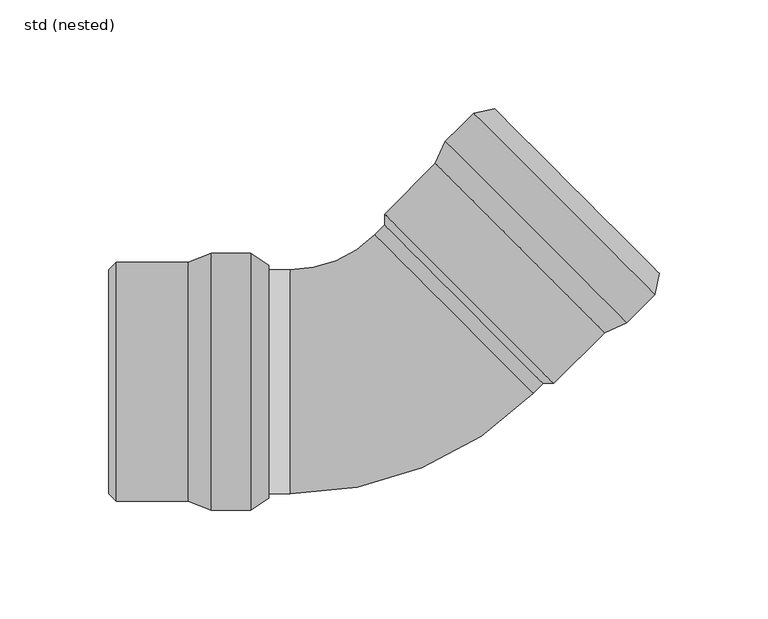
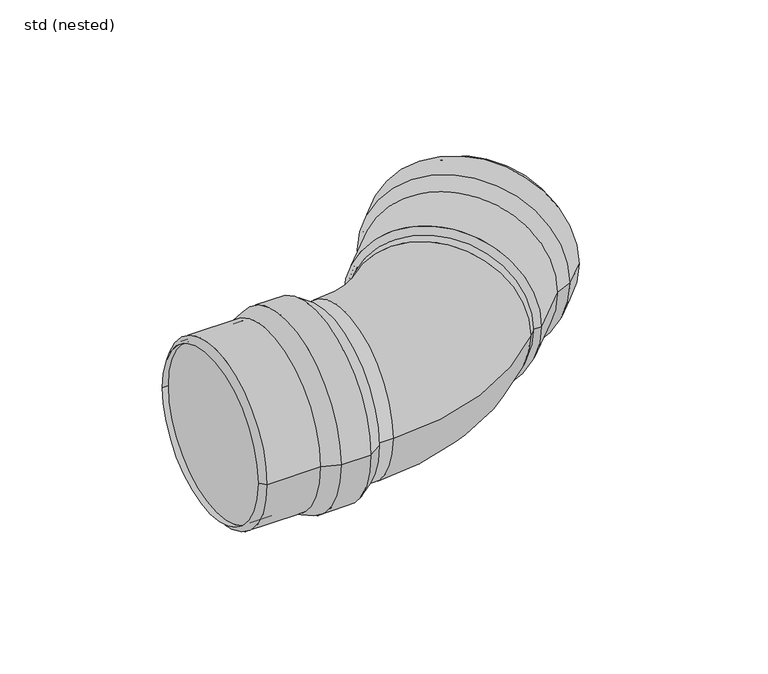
"""IFC4 building model written with IfcOpenShell, lengths in millimetres: pipe fitting geometry, ZZZ_do not use_PIF_ST_UN_GM-X pipe bend_ACO : std (nested)."""

from ifc_helpers import new_model, si_unit, point, frame, origin, place, context, project, spatial, polyline, circle_curve, ellipse_curve, trimmed, source, transform, mapped, element, save
from ifc_brep_helpers import plane_surface, cylinder_surface, revolved_surface, advanced_brep


def std_nested_1f503c2f(model_context):
    return source(origin(), model_context, "Body", "AdvancedBrep", [
        advanced_brep(
        [(-80.5, -59.0, 0.0), (-80.5, 59.0, 0.0), (-62.3, 59.0, 0.0), (-62.3, -59.0, 0.0), (-91.0, -55.0, 0.0), (-91.0, 55.0, 0.0), (-54.0, 53.5, 0.0), (-54.0, -53.5, 0.0), (-124.0, -55.0, 0.0), (-124.0, 55.0, 0.0), (-127.5, -51.5, 0.0), (-127.5, 51.5, 0.0), (-124.0, -51.5, 0.0), (-124.0, 51.5, 0.0), (-90.6319487, -53.0, 0.0), (-90.6319487, 53.0, 0.0), (-124.0, 53.0, 0.0), (-124.0, -53.0, 0.0), (-80.1319487, -57.0, 0.0), (-80.1319487, 57.0, 0.0), (-62.9025117, -57.0, 0.0), (-62.9025117, 57.0, 0.0), (-55.1047607, -51.8328156, 0.0), (-55.1047607, 51.8328156, 0.0)],
        [
            (0, 1, circle_curve(frame((-80.5, 0.0, 0.0), z_axis=(1.0, 0.0, 0.0), x_axis=(0.0, 1.0, 0.0)), 59.0)),
            (1, 2),
            (2, 3, circle_curve(frame((-62.3, 0.0, 0.0), z_axis=(-1.0, 0.0, 0.0), x_axis=(0.0, 1.0, 0.0)), 59.0)),
            (3, 0),
            (1, 0, circle_curve(frame((-80.5, 0.0, 0.0), z_axis=(1.0, 0.0, 0.0), x_axis=(0.0, 1.0, 0.0)), 59.0)),
            (3, 2, circle_curve(frame((-62.3, 0.0, 0.0), z_axis=(-1.0, 0.0, 0.0), x_axis=(0.0, 1.0, 0.0)), 59.0)),
            (4, 5, circle_curve(frame((-91.0, 0.0, 0.0), z_axis=(1.0, 0.0, 0.0), x_axis=(0.0, 1.0, 0.0)), 55.0)),
            (5, 1),
            (0, 4),
            (5, 4, circle_curve(frame((-91.0, 0.0, 0.0), z_axis=(1.0, 0.0, 0.0), x_axis=(0.0, 1.0, 0.0)), 55.0)),
            (2, 6),
            (6, 7, circle_curve(frame((-54.0, 0.0, 0.0), z_axis=(-1.0, 0.0, 0.0), x_axis=(0.0, 1.0, 0.0)), 53.5)),
            (7, 3),
            (7, 6, circle_curve(frame((-54.0, 0.0, 0.0), z_axis=(-1.0, 0.0, 0.0), x_axis=(0.0, 1.0, 0.0)), 53.5)),
            (8, 9, circle_curve(frame((-124.0, 0.0, 0.0), z_axis=(1.0, 0.0, 0.0), x_axis=(0.0, 1.0, 0.0)), 55.0)),
            (9, 5),
            (4, 8),
            (9, 8, circle_curve(frame((-124.0, 0.0, 0.0), z_axis=(1.0, 0.0, 0.0), x_axis=(0.0, 1.0, 0.0)), 55.0)),
            (10, 11, circle_curve(frame((-127.5, 0.0, 0.0), z_axis=(1.0, 0.0, 0.0), x_axis=(0.0, 1.0, 0.0)), 51.5)),
            (11, 9),
            (8, 10),
            (11, 10, circle_curve(frame((-127.5, 0.0, 0.0), z_axis=(1.0, 0.0, 0.0), x_axis=(0.0, 1.0, 0.0)), 51.5)),
            (12, 13, circle_curve(frame((-124.0, 0.0, 0.0), z_axis=(1.0, 0.0, 0.0), x_axis=(0.0, 1.0, 0.0)), 51.5)),
            (13, 11),
            (10, 12),
            (13, 12, circle_curve(frame((-124.0, 0.0, 0.0), z_axis=(1.0, 0.0, 0.0), x_axis=(0.0, 1.0, 0.0)), 51.5)),
            (14, 15, circle_curve(frame((-90.6319487, 0.0, 0.0), z_axis=(1.0, 0.0, 0.0), x_axis=(0.0, 1.0, 0.0)), 53.0)),
            (15, 16),
            (16, 17, circle_curve(frame((-124.0, 0.0, 0.0), z_axis=(-1.0, 0.0, 0.0), x_axis=(0.0, 1.0, 0.0)), 53.0)),
            (17, 14),
            (15, 14, circle_curve(frame((-90.6319487, 0.0, 0.0), z_axis=(1.0, 0.0, 0.0), x_axis=(0.0, 1.0, 0.0)), 53.0)),
            (17, 16, circle_curve(frame((-124.0, 0.0, 0.0), z_axis=(-1.0, 0.0, 0.0), x_axis=(0.0, 1.0, 0.0)), 53.0)),
            (18, 19, circle_curve(frame((-80.1319487, 0.0, 0.0), z_axis=(1.0, 0.0, 0.0), x_axis=(0.0, 1.0, 0.0)), 57.0)),
            (19, 15),
            (14, 18),
            (19, 18, circle_curve(frame((-80.1319487, 0.0, 0.0), z_axis=(1.0, 0.0, 0.0), x_axis=(0.0, 1.0, 0.0)), 57.0)),
            (20, 21, circle_curve(frame((-62.9025117, 0.0, 0.0), z_axis=(1.0, 0.0, 0.0), x_axis=(0.0, 1.0, 0.0)), 57.0)),
            (21, 19),
            (18, 20),
            (21, 20, circle_curve(frame((-62.9025117, 0.0, 0.0), z_axis=(1.0, 0.0, 0.0), x_axis=(0.0, 1.0, 0.0)), 57.0)),
            (22, 23, circle_curve(frame((-55.1047607, 0.0, 0.0), z_axis=(1.0, 0.0, 0.0), x_axis=(0.0, 1.0, 0.0)), 51.8328156)),
            (23, 21),
            (20, 22),
            (23, 22, circle_curve(frame((-55.1047607, 0.0, 0.0), z_axis=(1.0, 0.0, 0.0), x_axis=(0.0, 1.0, 0.0)), 51.8328156)),
            (6, 23),
            (22, 7),
            (16, 13),
            (12, 17),
        ],
        [
            cylinder_surface(frame((-57.3555883, 0.0, 0.0), z_axis=(-1.0, 0.0, 0.0), x_axis=(0.0, 1.0, 0.0)), 59.0),
            revolved_surface(polyline([(-80.5, 59.0, 0.0), (-91.0, 55.0, 0.0)]), (-57.3555883, 0.0, 0.0), (-1.0, 0.0, 0.0)),
            revolved_surface(polyline([(-54.0, 53.5, 0.0), (-62.3, 59.0, 0.0)]), (-57.3555883, 0.0, 0.0), (-1.0, 0.0, 0.0)),
            cylinder_surface(frame((-57.3555883, 0.0, 0.0), z_axis=(-1.0, 0.0, 0.0), x_axis=(0.0, 1.0, 0.0)), 55.0),
            revolved_surface(polyline([(-124.0, 55.0, 0.0), (-127.5, 51.5, 0.0)]), (-57.3555883, 0.0, 0.0), (-1.0, 0.0, 0.0)),
            revolved_surface(polyline([(-127.5, 51.5, 0.0), (-124.0, 51.5, 0.0)]), (-57.3555883, 0.0, 0.0), (-1.0, 0.0, 0.0)),
            revolved_surface(polyline([(-124.0, 53.0, 0.0), (-90.6319487, 53.0, 0.0)]), (-57.3555883, 0.0, 0.0), (-1.0, 0.0, 0.0)),
            revolved_surface(polyline([(-90.6319487, 53.0, 0.0), (-80.1319487, 57.0, 0.0)]), (-57.3555883, 0.0, 0.0), (-1.0, 0.0, 0.0)),
            revolved_surface(polyline([(-80.1319487, 57.0, 0.0), (-62.9025117, 57.0, 0.0)]), (-57.3555883, 0.0, 0.0), (-1.0, 0.0, 0.0)),
            revolved_surface(polyline([(-62.9025117, 57.0, 0.0), (-55.1047607, 51.8328156, 0.0)]), (-57.3555883, 0.0, 0.0), (-1.0, 0.0, 0.0)),
            revolved_surface(polyline([(-55.1047607, 51.8328156, 0.0), (-54.0, 53.5, 0.0)]), (-57.3555883, 0.0, 0.0), (-1.0, 0.0, 0.0)),
            plane_surface(frame((-124.0, 0.0, 0.0), z_axis=(1.0, 0.0, 0.0), x_axis=(0.0, 1.0, 0.0))),
        ],
        [
            (0, [[1, 2, 3, 4]]),
            (0, [[5, -4, 6, -2]]),
            (1, [[7, 8, -1, 9]]),
            (1, [[10, -9, -5, -8]]),
            (2, [[-3, 11, 12, 13]]),
            (2, [[-6, -13, 14, -11]]),
            (3, [[15, 16, -7, 17]]),
            (3, [[18, -17, -10, -16]]),
            (4, [[19, 20, -15, 21]]),
            (4, [[22, -21, -18, -20]]),
            (5, [[23, 24, -19, 25]]),
            (5, [[26, -25, -22, -24]]),
            (6, [[27, 28, 29, 30]]),
            (6, [[31, -30, 32, -28]]),
            (7, [[33, 34, -27, 35]]),
            (7, [[36, -35, -31, -34]]),
            (8, [[37, 38, -33, 39]]),
            (8, [[40, -39, -36, -38]]),
            (9, [[41, 42, -37, 43]]),
            (9, [[44, -43, -40, -42]]),
            (10, [[-12, 45, -41, 46]]),
            (10, [[-14, -46, -44, -45]]),
            (11, [[-29, 47, -23, 48]]),
            (11, [[-32, -48, -26, -47]]),
        ],
    ),
        advanced_brep(
        [(110.6788446, 27.1559083, 0.0), (27.2913037, 110.6455365, 0.0), (40.1685175, 123.5070047, 0.0), (123.5560585, 40.0173765, 0.0), (100.4229865, 22.5659874, 0.0), (22.6888381, 100.3953018, 0.0), (49.9278005, 125.4809338, 0.0), (125.5419266, 49.774237, 0.0), (77.0741922, -0.7542571, 0.0), (-0.6599562, 77.0750573, 0.0), (72.1244456, -0.7512291, 0.0), (-0.6629842, 72.1253108, 0.0), (74.6008329, 1.7221302, 0.0), (1.8134031, 74.59867, 0.0), (99.270049, 24.2411581, 0.0), (24.362597, 99.2403156, 0.0), (0.753392, 75.6599789, 0.0), (75.660844, 0.6608213, 0.0), (109.5259072, 28.831079, 0.0), (28.9650625, 109.4905503, 0.0), (121.7164096, 41.0066755, 0.0), (41.155565, 121.6661468, 0.0), (123.5821091, 50.1731296, 0.0), (50.3242949, 123.5206297, 0.0)],
        [
            (0, 1, circle_curve(frame((68.9850741, 68.9007224, 0.0), z_axis=(0.7075392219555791, 0.7066740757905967, 0.0), x_axis=(-0.7066740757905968, 0.7075392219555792, 0.0)), 59.0)),
            (1, 2),
            (2, 3, circle_curve(frame((81.862288, 81.7621906, 0.0), z_axis=(-0.7075392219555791, -0.7066740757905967, 0.0), x_axis=(-0.7066740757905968, 0.7075392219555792, 0.0)), 59.0)),
            (3, 0),
            (1, 0, circle_curve(frame((68.9850741, 68.9007224, 0.0), z_axis=(0.7075392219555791, 0.7066740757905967, 0.0), x_axis=(-0.7066740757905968, 0.7075392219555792, 0.0)), 59.0)),
            (3, 2, circle_curve(frame((81.862288, 81.7621906, 0.0), z_axis=(-0.7075392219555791, -0.7066740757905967, 0.0), x_axis=(-0.7066740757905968, 0.7075392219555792, 0.0)), 59.0)),
            (4, 5, circle_curve(frame((61.5559123, 61.4806446, 0.0), z_axis=(0.7075392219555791, 0.7066740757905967, 0.0), x_axis=(-0.7066740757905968, 0.7075392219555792, 0.0)), 55.0)),
            (5, 1),
            (0, 4),
            (5, 4, circle_curve(frame((61.5559123, 61.4806446, 0.0), z_axis=(0.7075392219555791, 0.7066740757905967, 0.0), x_axis=(-0.7066740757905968, 0.7075392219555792, 0.0)), 55.0)),
            (2, 6),
            (6, 7, circle_curve(frame((87.7348635, 87.6275854, 0.0), z_axis=(-0.7075392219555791, -0.7066740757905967, 0.0), x_axis=(-0.7066740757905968, 0.7075392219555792, 0.0)), 53.5)),
            (7, 3),
            (7, 6, circle_curve(frame((87.7348635, 87.6275854, 0.0), z_axis=(-0.7075392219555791, -0.7066740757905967, 0.0), x_axis=(-0.7066740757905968, 0.7075392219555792, 0.0)), 53.5)),
            (8, 9, circle_curve(frame((38.207118, 38.1604001, 0.0), z_axis=(0.7075392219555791, 0.7066740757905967, 0.0), x_axis=(-0.7066740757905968, 0.7075392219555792, 0.0)), 55.0)),
            (9, 5),
            (4, 8),
            (9, 8, circle_curve(frame((38.207118, 38.1604001, 0.0), z_axis=(0.7075392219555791, 0.7066740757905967, 0.0), x_axis=(-0.7066740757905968, 0.7075392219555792, 0.0)), 55.0)),
            (10, 11, circle_curve(frame((35.7307307, 35.6870408, 0.0), z_axis=(0.7075392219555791, 0.7066740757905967, 0.0), x_axis=(-0.7066740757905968, 0.7075392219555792, 0.0)), 51.5)),
            (11, 9),
            (8, 10),
            (11, 10, circle_curve(frame((35.7307307, 35.6870408, 0.0), z_axis=(0.7075392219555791, 0.7066740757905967, 0.0), x_axis=(-0.7066740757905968, 0.7075392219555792, 0.0)), 51.5)),
            (12, 13, circle_curve(frame((38.207118, 38.1604001, 0.0), z_axis=(0.7075392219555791, 0.7066740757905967, 0.0), x_axis=(-0.7066740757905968, 0.7075392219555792, 0.0)), 51.5)),
            (13, 11),
            (10, 12),
            (13, 12, circle_curve(frame((38.207118, 38.1604001, 0.0), z_axis=(0.7075392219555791, 0.7066740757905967, 0.0), x_axis=(-0.7066740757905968, 0.7075392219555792, 0.0)), 51.5)),
            (14, 15, circle_curve(frame((61.816323, 61.7407369, 0.0), z_axis=(0.7075392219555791, 0.7066740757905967, 0.0), x_axis=(-0.7066740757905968, 0.7075392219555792, 0.0)), 53.0)),
            (15, 16),
            (16, 17, circle_curve(frame((38.207118, 38.1604001, 0.0), z_axis=(-0.7075392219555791, -0.7066740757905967, 0.0), x_axis=(-0.7066740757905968, 0.7075392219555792, 0.0)), 53.0)),
            (17, 14),
            (15, 14, circle_curve(frame((61.816323, 61.7407369, 0.0), z_axis=(0.7075392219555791, 0.7066740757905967, 0.0), x_axis=(-0.7066740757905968, 0.7075392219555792, 0.0)), 53.0)),
            (17, 16, circle_curve(frame((38.207118, 38.1604001, 0.0), z_axis=(-0.7075392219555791, -0.7066740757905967, 0.0), x_axis=(-0.7066740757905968, 0.7075392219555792, 0.0)), 53.0)),
            (18, 19, circle_curve(frame((69.2454848, 69.1608147, 0.0), z_axis=(0.7075392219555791, 0.7066740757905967, 0.0), x_axis=(-0.7066740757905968, 0.7075392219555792, 0.0)), 57.0)),
            (19, 15),
            (14, 18),
            (19, 18, circle_curve(frame((69.2454848, 69.1608147, 0.0), z_axis=(0.7075392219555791, 0.7066740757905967, 0.0), x_axis=(-0.7066740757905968, 0.7075392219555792, 0.0)), 57.0)),
            (20, 21, circle_curve(frame((81.4359873, 81.3364112, 0.0), z_axis=(0.7075392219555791, 0.7066740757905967, 0.0), x_axis=(-0.7066740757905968, 0.7075392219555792, 0.0)), 57.0)),
            (21, 19),
            (18, 20),
            (21, 20, circle_curve(frame((81.4359873, 81.3364112, 0.0), z_axis=(0.7075392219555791, 0.7066740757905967, 0.0), x_axis=(-0.7066740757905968, 0.7075392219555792, 0.0)), 57.0)),
            (22, 23, circle_curve(frame((86.953202, 86.8468796, 0.0), z_axis=(0.7075392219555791, 0.7066740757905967, 0.0), x_axis=(-0.7066740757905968, 0.7075392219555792, 0.0)), 51.8328156)),
            (23, 21),
            (20, 22),
            (23, 22, circle_curve(frame((86.953202, 86.8468796, 0.0), z_axis=(0.7075392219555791, 0.7066740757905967, 0.0), x_axis=(-0.7066740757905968, 0.7075392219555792, 0.0)), 51.8328156)),
            (6, 23),
            (22, 7),
            (16, 13),
            (12, 17),
        ],
        [
            cylinder_surface(frame((85.3606532, 85.2562781, 0.0), z_axis=(-0.7075392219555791, -0.7066740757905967, 0.0), x_axis=(-0.7066740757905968, 0.7075392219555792, 0.0)), 59.0),
            revolved_surface(polyline([(27.2913037, 110.6455365, 0.0), (22.6888381, 100.3953018, 0.0)]), (85.3606532, 85.2562781, 0.0), (-0.7075392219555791, -0.7066740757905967, 0.0)),
            revolved_surface(polyline([(49.9278005, 125.4809338, 0.0), (40.1685175, 123.5070047, 0.0)]), (85.3606532, 85.2562781, 0.0), (-0.7075392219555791, -0.7066740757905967, 0.0)),
            cylinder_surface(frame((85.3606532, 85.2562781, 0.0), z_axis=(-0.7075392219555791, -0.7066740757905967, 0.0), x_axis=(-0.7066740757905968, 0.7075392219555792, 0.0)), 55.0),
            revolved_surface(polyline([(-0.6599562, 77.0750573, 0.0), (-0.6629842, 72.1253108, 0.0)]), (85.3606532, 85.2562781, 0.0), (-0.7075392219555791, -0.7066740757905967, 0.0)),
            revolved_surface(polyline([(-0.6629841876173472, 72.12531071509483, 0.0), (1.8134031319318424, 74.59867002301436, 0.0)]), (85.3606532, 85.2562781, 0.0), (-0.7075392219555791, -0.7066740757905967, 0.0)),
            revolved_surface(polyline([(0.7533919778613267, 75.6599788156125, 0.0), (24.362597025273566, 99.24031562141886, 0.0)]), (85.3606532, 85.2562781, 0.0), (-0.7075392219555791, -0.7066740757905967, 0.0)),
            revolved_surface(polyline([(24.362597, 99.2403156, 0.0), (28.9650625, 109.4905503, 0.0)]), (85.3606532, 85.2562781, 0.0), (-0.7075392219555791, -0.7066740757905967, 0.0)),
            revolved_surface(polyline([(28.965062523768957, 109.49055027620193, 0.0), (41.15556503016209, 121.6661468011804, 0.0)]), (85.3606532, 85.2562781, 0.0), (-0.7075392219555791, -0.7066740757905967, 0.0)),
            revolved_surface(polyline([(41.155565, 121.6661468, 0.0), (50.3242949, 123.5206297, 0.0)]), (85.3606532, 85.2562781, 0.0), (-0.7075392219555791, -0.7066740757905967, 0.0)),
            revolved_surface(polyline([(50.3242949, 123.5206297, 0.0), (49.9278005, 125.4809338, 0.0)]), (85.3606532, 85.2562781, 0.0), (-0.7075392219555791, -0.7066740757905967, 0.0)),
            plane_surface(frame((38.207118, 38.1604001, 0.0), z_axis=(0.7075392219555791, 0.7066740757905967, 0.0), x_axis=(-0.7066740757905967, 0.7075392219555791, 0.0))),
        ],
        [
            (0, [[1, 2, 3, 4]]),
            (0, [[5, -4, 6, -2]]),
            (1, [[7, 8, -1, 9]]),
            (1, [[10, -9, -5, -8]]),
            (2, [[-3, 11, 12, 13]]),
            (2, [[-6, -13, 14, -11]]),
            (3, [[15, 16, -7, 17]]),
            (3, [[18, -17, -10, -16]]),
            (4, [[19, 20, -15, 21]]),
            (4, [[22, -21, -18, -20]]),
            (5, [[23, 24, -19, 25]]),
            (5, [[26, -25, -22, -24]]),
            (6, [[27, 28, 29, 30]]),
            (6, [[31, -30, 32, -28]]),
            (7, [[33, 34, -27, 35]]),
            (7, [[36, -35, -31, -34]]),
            (8, [[37, 38, -33, 39]]),
            (8, [[40, -39, -36, -38]]),
            (9, [[41, 42, -37, 43]]),
            (9, [[44, -43, -40, -42]]),
            (10, [[-12, 45, -41, 46]]),
            (10, [[-14, -46, -44, -45]]),
            (11, [[-29, 47, -23, 48]]),
            (11, [[-32, -48, -26, -47]]),
        ],
    ),
        advanced_brep(
        [(-5.2619891, 67.5319293, 0.0), (-44.0, 51.5, 0.0), (-44.0, -51.5, 0.0), (67.5254407, -5.3446106, 0.0), (31.1317258, 31.0936593, 51.5), (31.1317258, 31.0936593, -51.5), (-124.0, -51.5, 0.0), (-124.0, 51.5, 0.0), (74.6008329, 1.7221302, 0.0), (1.8134031, 74.59867, 0.0)],
        [
            (0, 1, circle_curve(frame((-44.0, 106.3173652, 0.0), z_axis=(0.0, 0.0, -1.0), x_axis=(0.0, -1.0, 0.0)), 54.8173652)),
            (1, 2, circle_curve(frame((-44.0, 0.0, 0.0), z_axis=(1.0, 0.0, 0.0), x_axis=(0.0, 1.0, 0.0)), 51.5)),
            (2, 3, circle_curve(frame((-44.0, 106.3173652, 0.0), z_axis=(0.0, 0.0, 1.0), x_axis=(0.0, -1.0, 0.0)), 157.8173652)),
            (3, 4, circle_curve(frame((31.1317258, 31.0936593, 0.0), z_axis=(-0.7075392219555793, -0.7066740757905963, 0.0), x_axis=(-0.7066740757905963, 0.7075392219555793, 0.0)), 51.5)),
            (4, 0, circle_curve(frame((31.1317258, 31.0936593, 0.0), z_axis=(-0.7075392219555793, -0.7066740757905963, 0.0), x_axis=(-0.7066740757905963, 0.7075392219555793, 0.0)), 51.5)),
            (0, 5, circle_curve(frame((31.1317258, 31.0936593, 0.0), z_axis=(-0.7075392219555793, -0.7066740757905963, 0.0), x_axis=(-0.7066740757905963, 0.7075392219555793, 0.0)), 51.5)),
            (5, 3, circle_curve(frame((31.1317258, 31.0936593, 0.0), z_axis=(-0.7075392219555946, -0.706674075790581, 0.0), x_axis=(-0.706674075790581, 0.7075392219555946, 0.0)), 51.5)),
            (2, 1, circle_curve(frame((-44.0, 0.0, 0.0), z_axis=(1.0, 0.0, 0.0), x_axis=(0.0, 1.0, 0.0)), 51.5)),
            (6, 7, circle_curve(frame((-124.0, 0.0, 0.0), z_axis=(-1.0, 0.0, 0.0), x_axis=(0.0, 1.0, 0.0)), 51.5)),
            (7, 6, circle_curve(frame((-124.0, 0.0, 0.0), z_axis=(-1.0, 0.0, 0.0), x_axis=(0.0, 1.0, 0.0)), 51.5)),
            (7, 1),
            (2, 6),
            (8, 9, circle_curve(frame((38.207118, 38.1604001, 0.0), z_axis=(0.7075392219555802, 0.7066740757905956, 0.0), x_axis=(-0.7066740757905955, 0.70753922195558, 0.0)), 51.5)),
            (9, 8, circle_curve(frame((38.207118, 38.1604001, 0.0), z_axis=(0.7075392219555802, 0.7066740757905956, 0.0), x_axis=(-0.7066740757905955, 0.70753922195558, 0.0)), 51.5)),
            (9, 0),
            (3, 8),
        ],
        [
            revolved_surface(trimmed(ellipse_curve(frame((-44.0, 0.0, 0.0), z_axis=(-1.0, 0.0, 0.0), x_axis=(0.0, 1.0, 0.0)), 51.5, 51.5), [point((-44.0, -51.5, 0.0))], [point((-44.0, 51.5, 0.0))], True, "CARTESIAN"), (-44.0, 106.3173652, 0.0), (0.0, 0.0, 1.0)),
            revolved_surface(trimmed(ellipse_curve(frame((-44.0, 0.0, 0.0), z_axis=(-1.0, 0.0, 0.0), x_axis=(0.0, 1.0, 0.0)), 51.5, 51.5), [point((-44.0, 51.5, 0.0))], [point((-44.0, -51.5, 0.0))], True, "CARTESIAN"), (-44.0, 106.3173652, 0.0), (0.0, 0.0, 1.0)),
            plane_surface(frame((-124.0, 51.5, 0.0), z_axis=(-1.0, 0.0, 0.0), x_axis=(0.0, 0.0, -1.0))),
            cylinder_surface(frame((-124.0, 0.0, 0.0), z_axis=(1.0, 0.0, 0.0), x_axis=(0.0, 1.0, 0.0)), 51.5),
            plane_surface(frame((38.207118, 38.1604001, 0.0), z_axis=(0.7075392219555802, 0.7066740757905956, 0.0), x_axis=(0.0, 0.0, 1.0))),
            cylinder_surface(frame((31.1317258, 31.0936593, 0.0), z_axis=(-0.70753922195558, -0.7066740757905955, 0.0), x_axis=(-0.7066740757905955, 0.70753922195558, 0.0)), 51.5),
        ],
        [
            (0, [[1, 2, 3, 4, 5]]),
            (1, [[-1, 6, 7, -3, 8]]),
            (2, [[9, 10]]),
            (3, [[-10, 11, -8, 12]]),
            (3, [[-9, -12, -2, -11]]),
            (4, [[13, 14]]),
            (5, [[-14, 15, -5, -4, 16]]),
            (5, [[-13, -16, -7, -6, -15]]),
        ],
    ),
    ])


if __name__ == "__main__":
    model = new_model("IFC4")
    model_context = context("Model", 3, world=origin())
    ifc_project = project(units=[si_unit("LENGTHUNIT", "METRE", prefix="MILLI")], contexts=[model_context])
    site = spatial("IfcSite", under=ifc_project)
    building = spatial("IfcBuilding", under=site)
    placement = place(None, origin())
    std_nested_shape = std_nested_1f503c2f(model_context)
    element("IfcPipeFitting", 1, ObjectType="ZZZ_do not use_PIF_ST_UN_GM-X pipe bend_ACO : std (nested)", at=placement, inside=building, context=model_context, shape_type="MappedRepresentation", body=[
        mapped(std_nested_shape, transform((0.0, 0.0, 0.0), x_axis=(1.0, 0.0, 0.0), y_axis=(0.0, 1.0, 0.0), z_axis=(0.0, 0.0, 1.0))),
    ])
    save(model, "model.ifc")
